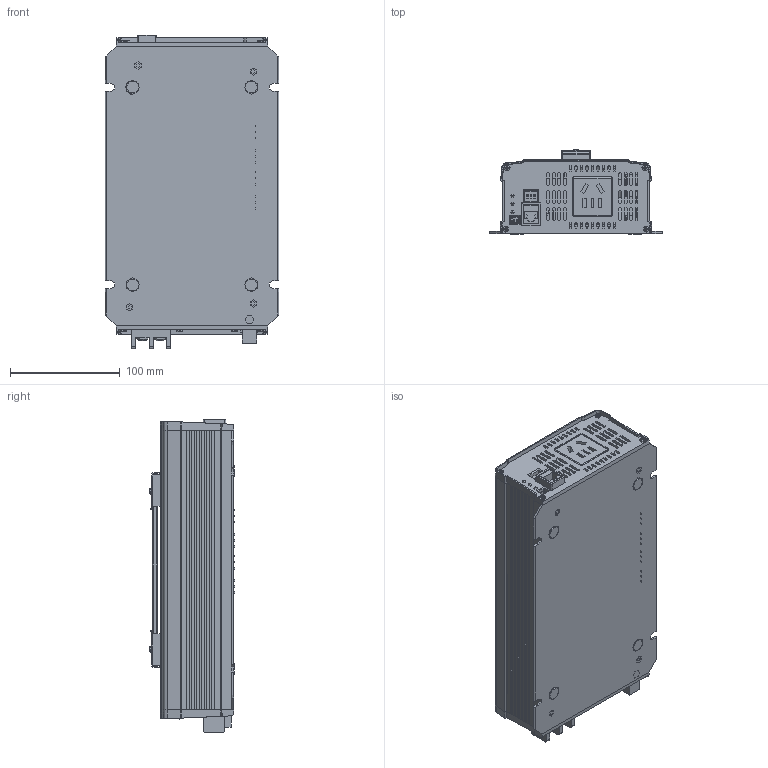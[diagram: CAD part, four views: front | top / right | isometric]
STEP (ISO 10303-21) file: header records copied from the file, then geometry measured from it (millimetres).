
FILE_DESCRIPTION(('Creo Elements/Direct Modeling STEP Export'),'2;1');
FILE_NAME('NTS-750CN.stp','2024-07-09T14:05:51',(''),(''),'PTC Creo Elements/Direct Modeling STEP processor for AP214 (Solid Model)','PTC Creo Elements/Direct Modeling 19.0E 27-Jun-2016 (C) Parametric Technology GmbH','');
FILE_SCHEMA(('AUTOMOTIVE_DESIGN { 1 0 10303 214 1 1 1 1 }'));
Length unit declared in the file: millimetre
Products named in the file (157): 中国插; 中国插.stp; 上盖; 下盖; M3-6.5L; M3-6.5L.1; M3-6.5L.1.1; M3-6.5L.1.1.1; 77; CASE; 1XX3NTS-750-I-20201103.prt; 1XX3NTS-750-I; NTS-750面板; 19-30286-1312__w__.1.1.1.1; 19-30286-1312__w__.1.1.1; 19-30286-1312__w__.1; 19-30286-1312__w__.1.1; 装配2; 19-30281-0250__w__.2.1; 19-30281-0250__w__.2.1.1; 装配2.1; 19-30281-0250__w__.2.1.1.1; 19-30286-1312__w__.1.1.2; 19-30286-1312__w__.1.1.2.1; 装配2.1.1; 螺丝; C.2; C.3; C.1; A.ASM; MHS-2.PRT; _S___S_C_S_Y_S___X2_02C6_X0_O.PRT; _S_Y_S_Q_S___S__.PRT; A3.ASM; PCB_5.ASM; _S___S_G_S_NA_S___S_H_X2_02DC_X.PRT.1; _S___S_U_S_KX.ASM; JS100107_1.PRT; PCB2.ASM; PCB1.PRT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
Assembly tree (156 placements, depth 9):
  中国插.stp
    中国插
      中国插
  NTS-750CN.stp
    NTS-750
      1XX3NTS-750CN-O
      固纬把手
        174
        guwei1
        guwei1.1
      装配1
        1GG
          1GG4CU-SZ031.1
          1GG1HS-SZ135
          1GG4CU-SZ032.1
          1GG4CU-SZ032
          1GG4CU-SZ031
          1GG1HS-SZ133
            DDD.1
            DDD
            SZ133
        1HH2
          1HH2NTS-750
          1HH2-FR4
          1HH2283A
          1HH176x25.6x0.3
        MOS1
          p3
          温度开关
          TO220-1.2.2.2.1.1.1.1
          TO220-1.2.2.2.1.1.1
          TO220-1.2.2.2.1.1
          TO220-1.2.2.2.1
          TO220-1.2.2.2
          TO220-1.2.2
        MOS
          TO247.1.1
          TO247
          MS1
          MS1.1
          TO247.1
          TO247.1.1.1
          MS1.1.1.1
          MS1.1.1
          TO220-1.2.1.1
          TO220-1.2.1
          TO220-1.2.1.1.1
          TO220-1.2
        TF
        PAD
          FOOT_PAD_7_1.PRT.30
          FOOT_PAD_7_1.PRT.31
          FOOT_PAD_7_1.PRT
          FOOT_PAD_7_1.PRT.29
        PCB
          PCBB
          PCBC
          PCBA
        小卡装配OK
          DH2L-20
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Bounding box: 158 x 77.87 x 286.01 mm (x, y, z)
Topology: 113 solids, 116 shells, 4028 faces, 10350 edges, 6664 vertices
Faces by surface type: plane 2666, cylinder 844, cone 303, bspline 128, torus 50, sphere 36, extrusion 1
Entity records: 144026 total; most frequent: CARTESIAN_POINT 43345, ORIENTED_EDGE 20624, DIRECTION 18722, EDGE_CURVE 10298, VECTOR 7134, LINE 7133, VERTEX_POINT 6664, AXIS2_PLACEMENT_3D 5794
